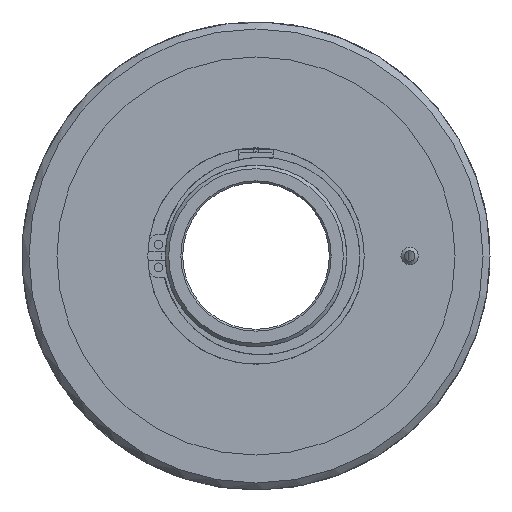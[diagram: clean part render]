
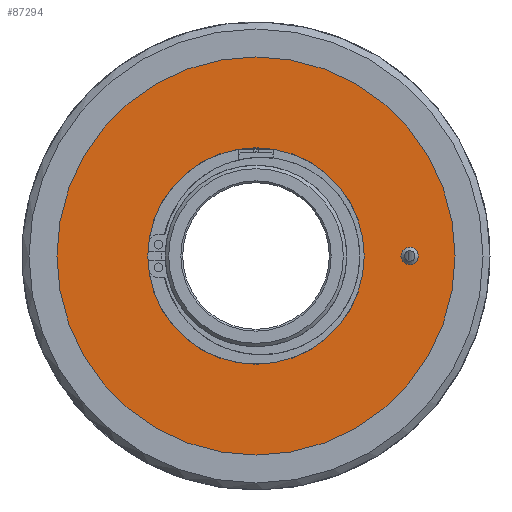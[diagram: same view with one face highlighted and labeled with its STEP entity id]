
A CAD part, left-side view. The second image highlights one B-rep face of the part: STEP entity #87294.
In plain terms, the highlighted planar face has unit normal (-1, 0, 0).
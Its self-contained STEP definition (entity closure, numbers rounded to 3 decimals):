
#11329=FACE_BOUND('',#26421,.T.);
#11330=FACE_BOUND('',#26422,.T.);
#12055=PLANE('',#91666);
#22221=FACE_OUTER_BOUND('',#26420,.T.);
#26420=EDGE_LOOP('',(#81498));
#26421=EDGE_LOOP('',(#81499));
#26422=EDGE_LOOP('',(#81500));
#29302=CIRCLE('',#91655,2.5);
#29308=CIRCLE('',#91667,57.);
#29309=CIRCLE('',#91668,31.);
#38598=VERTEX_POINT('',#224273);
#38603=VERTEX_POINT('',#224294);
#38604=VERTEX_POINT('',#224296);
#52967=EDGE_CURVE('',#38598,#38598,#29302,.T.);
#52977=EDGE_CURVE('',#38603,#38603,#29308,.T.);
#52978=EDGE_CURVE('',#38604,#38604,#29309,.T.);
#81498=ORIENTED_EDGE('',*,*,#52977,.F.);
#81499=ORIENTED_EDGE('',*,*,#52967,.T.);
#81500=ORIENTED_EDGE('',*,*,#52978,.T.);
#87294=ADVANCED_FACE('',(#22221,#11329,#11330),#12055,.T.);
#91655=AXIS2_PLACEMENT_3D('',#224274,#103013,#103014);
#91666=AXIS2_PLACEMENT_3D('',#224293,#103039,#103040);
#91667=AXIS2_PLACEMENT_3D('',#224295,#103041,#103042);
#91668=AXIS2_PLACEMENT_3D('',#224297,#103043,#103044);
#103013=DIRECTION('center_axis',(1.,0.,0.));
#103014=DIRECTION('ref_axis',(0.,0.,
-1.));
#103039=DIRECTION('center_axis',(-1.,0.,0.));
#103040=DIRECTION('ref_axis',(0.,0.,
1.));
#103041=DIRECTION('center_axis',(1.,0.,0.));
#103042=DIRECTION('ref_axis',(0.,0.,
-1.));
#103043=DIRECTION('center_axis',(1.,0.,0.));
#103044=DIRECTION('ref_axis',(0.,0.,
-1.));
#224273=CARTESIAN_POINT('',(-29.5,-44.,2.5));
#224274=CARTESIAN_POINT('Origin',(-29.5,-44.,0.));
#224293=CARTESIAN_POINT('Origin',(-29.5,59.,0.));
#224294=CARTESIAN_POINT('',(-29.5,57.,0.));
#224295=CARTESIAN_POINT('Origin',(-29.5,0.,0.));
#224296=CARTESIAN_POINT('',(-29.5,-31.,0.));
#224297=CARTESIAN_POINT('Origin',(-29.5,0.,0.));
